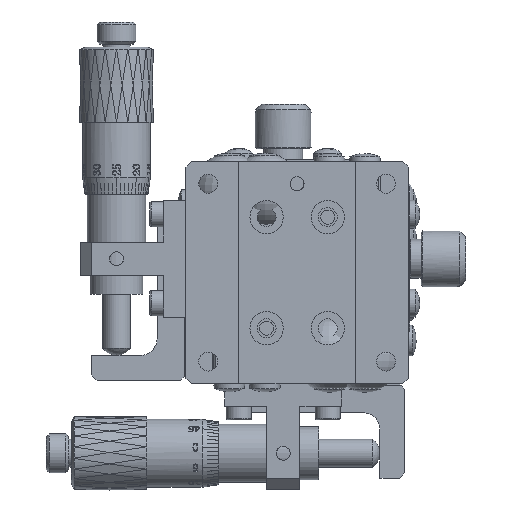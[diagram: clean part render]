
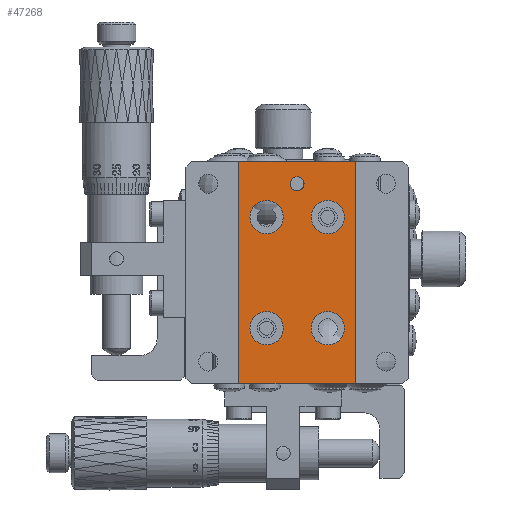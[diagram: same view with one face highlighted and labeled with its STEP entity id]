
A CAD part, front view. The second image highlights one B-rep face of the part: STEP entity #47268.
In plain terms, the highlighted planar face has unit normal (0, -1, 0).
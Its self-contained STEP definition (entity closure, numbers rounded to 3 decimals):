
#964 = CARTESIAN_POINT ( 'NONE',  ( 14.5, 1.5, 7. ) ) ;
#1240 = CIRCLE ( 'NONE', #79525, 3. ) ;
#1623 = CARTESIAN_POINT ( 'NONE',  ( 9.5, 1.5, 40. ) ) ;
#7149 = DIRECTION ( 'NONE',  ( 0., 0., -1. ) ) ;
#7360 = ORIENTED_EDGE ( 'NONE', *, *, #80454, .F. ) ;
#7737 = DIRECTION ( 'NONE',  ( 0., -1., 0. ) ) ;
#10807 = CARTESIAN_POINT ( 'NONE',  ( 0., 1.5, 0. ) ) ;
#10891 = EDGE_LOOP ( 'NONE', ( #95101 ) ) ;
#11676 = DIRECTION ( 'NONE',  ( 0., -1., 0. ) ) ;
#13722 = FACE_BOUND ( 'NONE', #70799, .T. ) ;
#14523 = LINE ( 'NONE', #81525, #36306 ) ;
#15682 = EDGE_LOOP ( 'NONE', ( #50279 ) ) ;
#22144 = AXIS2_PLACEMENT_3D ( 'NONE', #63956, #7737, #32205 ) ;
#25236 = VERTEX_POINT ( 'NONE', #120221 ) ;
#27098 = EDGE_CURVE ( 'NONE', #129090, #129090, #1240, .T. ) ;
#29313 = VERTEX_POINT ( 'NONE', #41522 ) ;
#30065 = DIRECTION ( 'NONE',  ( -1., 0., 0. ) ) ;
#31184 = AXIS2_PLACEMENT_3D ( 'NONE', #90550, #35781, #112216 ) ;
#32205 = DIRECTION ( 'NONE',  ( 0., 0., -1. ) ) ;
#35781 = DIRECTION ( 'NONE',  ( 0., -1., 0. ) ) ;
#36062 = DIRECTION ( 'NONE',  ( 0., 1., 0. ) ) ;
#36306 = VECTOR ( 'NONE', #135589, 1000. ) ;
#37021 = CARTESIAN_POINT ( 'NONE',  ( 9.5, 1.5, 0. ) ) ;
#41090 = EDGE_CURVE ( 'NONE', #79984, #79984, #61121, .T. ) ;
#41522 = CARTESIAN_POINT ( 'NONE',  ( 14.5, 1.5, 27. ) ) ;
#43986 = VERTEX_POINT ( 'NONE', #37021 ) ;
#44427 = LINE ( 'NONE', #66098, #101180 ) ;
#44772 = ORIENTED_EDGE ( 'NONE', *, *, #60770, .T. ) ;
#45552 = DIRECTION ( 'NONE',  ( 0., 0., -1. ) ) ;
#47268 = ADVANCED_FACE ( 'NONE', ( #135488, #112483, #80715, #13722, #57666, #101657 ), #77915, .F. ) ;
#47852 = AXIS2_PLACEMENT_3D ( 'NONE', #61938, #105887, #7149 ) ;
#50279 = ORIENTED_EDGE ( 'NONE', *, *, #132271, .F. ) ;
#51478 = ORIENTED_EDGE ( 'NONE', *, *, #98432, .T. ) ;
#51721 = VECTOR ( 'NONE', #98747, 1000. ) ;
#53784 = EDGE_LOOP ( 'NONE', ( #103021 ) ) ;
#55335 = DIRECTION ( 'NONE',  ( 0., -1., 0. ) ) ;
#55710 = VERTEX_POINT ( 'NONE', #964 ) ;
#55910 = EDGE_LOOP ( 'NONE', ( #7360 ) ) ;
#57057 = CARTESIAN_POINT ( 'NONE',  ( 25.5, 1.5, 10. ) ) ;
#57666 = FACE_OUTER_BOUND ( 'NONE', #100401, .T. ) ;
#60770 = EDGE_CURVE ( 'NONE', #25236, #107670, #14523, .T. ) ;
#61121 = CIRCLE ( 'NONE', #31184, 1.25 ) ;
#61938 = CARTESIAN_POINT ( 'NONE',  ( 14.5, 1.5, 30. ) ) ;
#63501 = CARTESIAN_POINT ( 'NONE',  ( 25.5, 1.5, 27. ) ) ;
#63942 = CARTESIAN_POINT ( 'NONE',  ( 0., 1.5, 40. ) ) ;
#63956 = CARTESIAN_POINT ( 'NONE',  ( 14.5, 1.5, 10. ) ) ;
#65513 = VERTEX_POINT ( 'NONE', #1623 ) ;
#66098 = CARTESIAN_POINT ( 'NONE',  ( 9.5, 1.5, -71.6 ) ) ;
#68565 = CARTESIAN_POINT ( 'NONE',  ( 30.5, 1.5, 40. ) ) ;
#69205 = CARTESIAN_POINT ( 'NONE',  ( 30.5, 1.5, -71.6 ) ) ;
#70799 = EDGE_LOOP ( 'NONE', ( #80219 ) ) ;
#71122 = VERTEX_POINT ( 'NONE', #83331 ) ;
#77020 = AXIS2_PLACEMENT_3D ( 'NONE', #57057, #11676, #45552 ) ;
#77915 = PLANE ( 'NONE',  #114641 ) ;
#78386 = CARTESIAN_POINT ( 'NONE',  ( 25.5, 1.5, 30. ) ) ;
#79525 = AXIS2_PLACEMENT_3D ( 'NONE', #78386, #55335, #131747 ) ;
#79984 = VERTEX_POINT ( 'NONE', #132628 ) ;
#80219 = ORIENTED_EDGE ( 'NONE', *, *, #41090, .F. ) ;
#80454 = EDGE_CURVE ( 'NONE', #71122, #71122, #88513, .T. ) ;
#80715 = FACE_BOUND ( 'NONE', #15682, .T. ) ;
#80762 = EDGE_CURVE ( 'NONE', #25236, #43986, #109551, .T. ) ;
#81525 = CARTESIAN_POINT ( 'NONE',  ( 30.5, 1.5, -71.6 ) ) ;
#83331 = CARTESIAN_POINT ( 'NONE',  ( 25.5, 1.5, 7. ) ) ;
#86951 = LINE ( 'NONE', #63942, #121699 ) ;
#88513 = CIRCLE ( 'NONE', #77020, 3. ) ;
#89101 = DIRECTION ( 'NONE',  ( 0., 0., 1. ) ) ;
#90550 = CARTESIAN_POINT ( 'NONE',  ( 20., 1.5, 36. ) ) ;
#91714 = EDGE_CURVE ( 'NONE', #29313, #29313, #137877, .T. ) ;
#95101 = ORIENTED_EDGE ( 'NONE', *, *, #91714, .F. ) ;
#98432 = EDGE_CURVE ( 'NONE', #107670, #65513, #86951, .T. ) ;
#98747 = DIRECTION ( 'NONE',  ( -1., 0., 0. ) ) ;
#100401 = EDGE_LOOP ( 'NONE', ( #44772, #51478, #140797, #105220 ) ) ;
#101180 = VECTOR ( 'NONE', #89101, 1000. ) ;
#101657 = FACE_BOUND ( 'NONE', #10891, .T. ) ;
#103021 = ORIENTED_EDGE ( 'NONE', *, *, #27098, .F. ) ;
#105220 = ORIENTED_EDGE ( 'NONE', *, *, #80762, .F. ) ;
#105887 = DIRECTION ( 'NONE',  ( 0., -1., 0. ) ) ;
#107670 = VERTEX_POINT ( 'NONE', #68565 ) ;
#109551 = LINE ( 'NONE', #10807, #51721 ) ;
#112216 = DIRECTION ( 'NONE',  ( 0., 0., 1. ) ) ;
#112483 = FACE_BOUND ( 'NONE', #55910, .T. ) ;
#113178 = DIRECTION ( 'NONE',  ( 0., 0., 1. ) ) ;
#114256 = CIRCLE ( 'NONE', #22144, 3. ) ;
#114641 = AXIS2_PLACEMENT_3D ( 'NONE', #69205, #36062, #113178 ) ;
#120221 = CARTESIAN_POINT ( 'NONE',  ( 30.5, 1.5, 0. ) ) ;
#121699 = VECTOR ( 'NONE', #30065, 1000. ) ;
#129090 = VERTEX_POINT ( 'NONE', #63501 ) ;
#131747 = DIRECTION ( 'NONE',  ( 0., 0., -1. ) ) ;
#132271 = EDGE_CURVE ( 'NONE', #55710, #55710, #114256, .T. ) ;
#132628 = CARTESIAN_POINT ( 'NONE',  ( 20., 1.5, 37.25 ) ) ;
#135488 = FACE_BOUND ( 'NONE', #53784, .T. ) ;
#135589 = DIRECTION ( 'NONE',  ( 0., 0., 1. ) ) ;
#137877 = CIRCLE ( 'NONE', #47852, 3. ) ;
#140797 = ORIENTED_EDGE ( 'NONE', *, *, #141157, .F. ) ;
#141157 = EDGE_CURVE ( 'NONE', #43986, #65513, #44427, .T. ) ;
